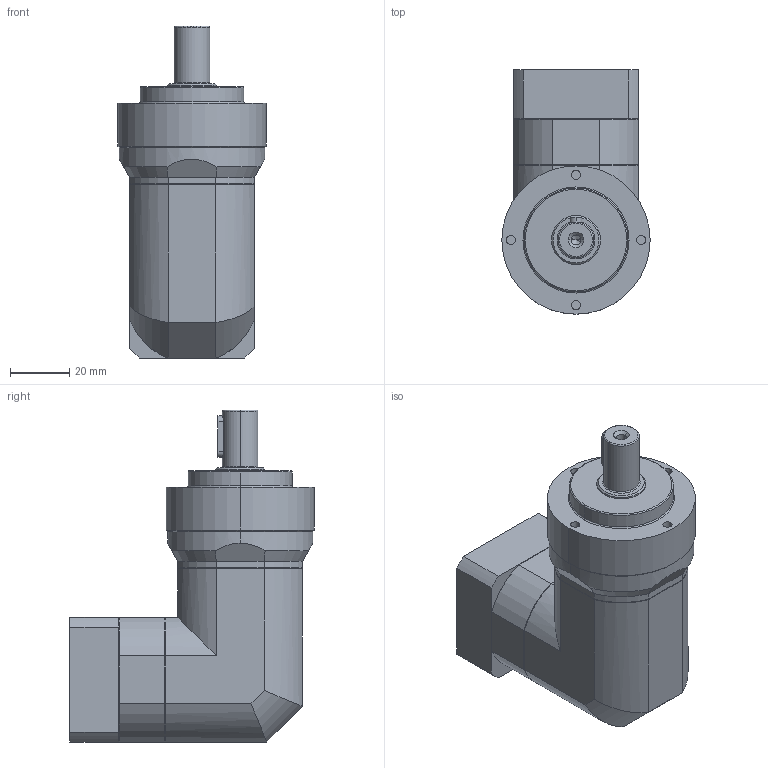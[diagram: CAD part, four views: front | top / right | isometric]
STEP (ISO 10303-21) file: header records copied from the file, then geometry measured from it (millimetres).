
FILE_DESCRIPTION (( 'STEP AP214' ), '1' );
FILE_NAME ('EVL050-L1-S2-P1 8-30-46-M4.STEP', '2023-09-09T01:14:02', ( '微软用户' ), ( '微软中国' ), 'SwSTEP 2.0', 'SolidWorks 2018', '' );
FILE_SCHEMA (( 'AUTOMOTIVE_DESIGN' ));
Length unit declared in the file: millimetre
Products named in the file (1): EVL050-L1-S2-P1 8-30-46-M4
Bounding box: 50 x 82.5 x 112 mm (x, y, z)
Volume: 195443.5 mm3; surface area: 26782.5 mm2
Topology: 1 solids, 1 shells, 154 faces, 346 edges, 211 vertices
Faces by surface type: cylinder 62, plane 60, cone 24, torus 8
Entity records: 4394 total; most frequent: CARTESIAN_POINT 901, DIRECTION 752, ORIENTED_EDGE 688, EDGE_CURVE 344, AXIS2_PLACEMENT_3D 300, VERTEX_POINT 211, EDGE_LOOP 173, FACE_OUTER_BOUND 154
